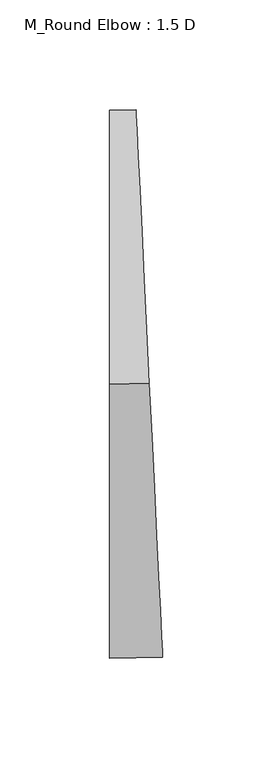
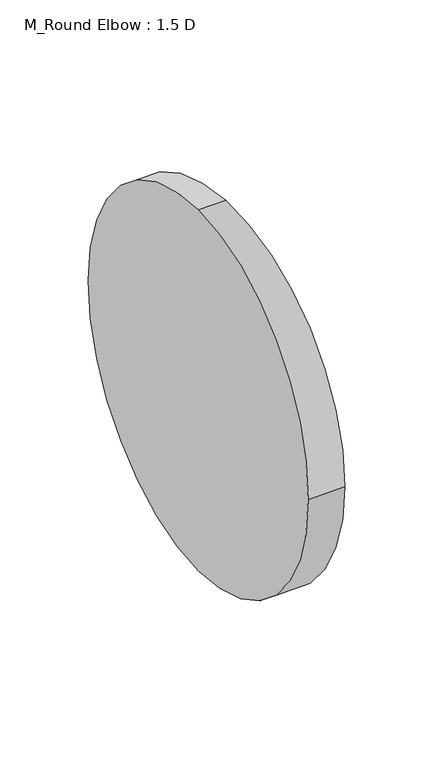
"""IFC4 building model written with IfcOpenShell, lengths in millimetres: duct fitting geometry, M_Round Elbow : 1.5 D."""

import ifcopenshell
import ifcopenshell.guid

model = None  # the IFC model being written
_history = None  # IfcOwnerHistory: only IFC2X3 demands one
_inside = {}  # id of a spatial element -> (the spatial element, [elements in it])
_under = {}  # id of a project, library or spatial element -> (it, [spatial elements below it])
_declared = {}  # id of a project -> (the project, [libraries it declares])
_typed = {}  # id of a type object -> (the type object, [elements of that type])
_made_of = {}  # id of a material, layer set ... -> (it, [elements and type objects made of it])


def new_model(schema):
    """Start an empty IFC model of exactly this schema.

    Asked for "IFC4X3", IfcOpenShell would pick the latest addendum, in which some entities
    have other attributes; the version numbers below select the first issue.
    IFC2X3 requires an IfcOwnerHistory on every rooted entity: one is made here for all.
    """
    global model, _history
    if schema == "IFC4X3":
        model = ifcopenshell.file(schema_version=(4, 3, 0, 0))
    else:
        model = ifcopenshell.file(schema=schema)
    _inside.clear()
    _under.clear()
    _declared.clear()
    _typed.clear()
    _made_of.clear()
    _history = None
    if model.schema == "IFC2X3":
        org = make("IfcOrganization", Name="unknown")
        user = make(
            "IfcPersonAndOrganization",
            ThePerson=make("IfcPerson", FamilyName="unknown"),
            TheOrganization=org,
        )
        app = make(
            "IfcApplication",
            ApplicationDeveloper=org,
            Version="unknown",
            ApplicationFullName="unknown",
            ApplicationIdentifier="unknown",
        )
        _history = make(
            "IfcOwnerHistory",
            OwningUser=user,
            OwningApplication=app,
            ChangeAction="ADDED",
            CreationDate=0,
        )
    return model


def make(cls, **values):
    """One entity of the class cls with the attributes given. An attribute that is None is left unset."""
    return model.create_entity(
        cls, **{name: value for name, value in values.items() if value is not None}
    )


def rooted(cls, **values):
    """An entity with a GlobalId (a new one), such as an element, a storey or a relation."""
    return make(cls, GlobalId=ifcopenshell.guid.new(), OwnerHistory=_history, **values)


def si_unit(unit_type, name, prefix=None):
    """IfcSIUnit, for example si_unit("LENGTHUNIT", "METRE", prefix="MILLI")."""
    return make("IfcSIUnit", UnitType=unit_type, Prefix=prefix, Name=name)


def assignment(units):
    """IfcUnitAssignment: the units of a project."""
    return None if units is None else make("IfcUnitAssignment", Units=units)


def point(xyz):
    """IfcCartesianPoint."""
    return None if xyz is None else make("IfcCartesianPoint", Coordinates=xyz)


def direction(xyz):
    """IfcDirection."""
    return None if xyz is None else make("IfcDirection", DirectionRatios=xyz)


def frame(location, z_axis=None, x_axis=None):
    """IfcAxis2Placement3D, a coordinate frame: its origin and axes. An axis left out is left unset."""
    return make(
        "IfcAxis2Placement3D",
        Location=point(location),
        Axis=direction(z_axis),
        RefDirection=direction(x_axis),
    )


def origin():
    """The frame at (0, 0, 0) with its axes left unset."""
    return frame((0.0, 0.0, 0.0))


def place(relative_to, where):
    """IfcLocalPlacement: puts the frame where relative to a parent placement (None: the world)."""
    return make(
        "IfcLocalPlacement", PlacementRelTo=relative_to, RelativePlacement=where
    )


def context(
    kind, dimensions, precision=None, world=None, true_north=None, identifier=None
):
    """IfcGeometricRepresentationContext, for example the 3D "Model" context."""
    return make(
        "IfcGeometricRepresentationContext",
        ContextIdentifier=identifier,
        ContextType=kind,
        CoordinateSpaceDimension=dimensions,
        Precision=precision,
        WorldCoordinateSystem=world,
        TrueNorth=true_north,
    )


def project(units=None, contexts=None):
    """IfcProject with its units and contexts."""
    return rooted(
        "IfcProject",
        Name="project",
        RepresentationContexts=contexts,
        UnitsInContext=assignment(units),
    )


def spatial(cls, under=None, at=None, **own):
    """A site, building, storey or space (cls), placed at a placement, below another one or the project."""
    s = rooted(cls, ObjectPlacement=at, **own)
    if under is not None:
        _under.setdefault(under.id(), (under, []))[1].append(s)
    return s


def circle_curve(where, radius):
    """IfcCircle in the frame where."""
    return make("IfcCircle", Position=where, Radius=radius)


def ellipse_curve(where, semi_axis1, semi_axis2):
    """IfcEllipse in the frame where."""
    return make(
        "IfcEllipse", Position=where, SemiAxis1=semi_axis1, SemiAxis2=semi_axis2
    )


def trimmed(basis, trim1, trim2, sense, master):
    """IfcTrimmedCurve: the piece of a basis curve between two trims."""
    return make(
        "IfcTrimmedCurve",
        BasisCurve=basis,
        Trim1=trim1,
        Trim2=trim2,
        SenseAgreement=sense,
        MasterRepresentation=master,
    )


def shape(context_of_items, identifier, shape_type, items):
    """IfcShapeRepresentation: the items that make up one representation, for example the "Body"."""
    return make(
        "IfcShapeRepresentation",
        ContextOfItems=context_of_items,
        RepresentationIdentifier=identifier,
        RepresentationType=shape_type,
        Items=items,
    )


def source(mapping_origin, context_of_items, identifier, shape_type, items):
    """IfcRepresentationMap: a shape defined once, which mapped items show again and again."""
    return make(
        "IfcRepresentationMap",
        MappingOrigin=mapping_origin,
        MappedRepresentation=shape(context_of_items, identifier, shape_type, items),
    )


def transform(
    local_origin,
    x_axis=None,
    y_axis=None,
    z_axis=None,
    scale=None,
    scale2=None,
    scale3=None,
    uniform=True,
):
    """IfcCartesianTransformationOperator3D, or its non-uniform kind. x_axis, y_axis, z_axis: its Axis1, 2, 3."""
    if uniform:
        return make(
            "IfcCartesianTransformationOperator3D",
            Axis1=direction(x_axis),
            Axis2=direction(y_axis),
            LocalOrigin=point(local_origin),
            Scale=scale,
            Axis3=direction(z_axis),
        )
    return make(
        "IfcCartesianTransformationOperator3DnonUniform",
        Axis1=direction(x_axis),
        Axis2=direction(y_axis),
        LocalOrigin=point(local_origin),
        Scale=scale,
        Axis3=direction(z_axis),
        Scale2=scale2,
        Scale3=scale3,
    )


def mapped(mapping_source, mapping_target):
    """IfcMappedItem: shows the shape of a source again, moved by a transform."""
    return make(
        "IfcMappedItem", MappingSource=mapping_source, MappingTarget=mapping_target
    )


def made_of(thing, what):
    """Note that an element or type object is made of a material, layer set ...; save() writes the relation."""
    if what is not None:
        _made_of.setdefault(what.id(), (what, []))[1].append(thing)
    return thing


def element(
    cls,
    number,
    at=None,
    inside=None,
    cuts=None,
    type_object=None,
    material=None,
    context=None,
    identifier="Body",
    shape_type=None,
    held_by="IfcProductDefinitionShape",
    body=None,
    shapes=None,
    **own,
):
    """One element of the class cls, such as IfcWall. Its Tag is "e" and its number.

    at: its placement. inside: the storey or other place that contains it. cuts: it is an
    opening in that element (IfcRelVoidsElement). A single representation is given by context,
    identifier, shape_type and body (its items); several are given by shapes. held_by: the class
    of the entity that holds the representations. save() writes the other relations.
    """
    e = rooted(cls, Tag="e%d" % number, ObjectPlacement=at, **own)
    if body is not None:
        shapes = [shape(context, identifier, shape_type, body)]
    if shapes is not None:
        e.Representation = make(held_by, Representations=shapes)
    if inside is not None:
        _inside.setdefault(inside.id(), (inside, []))[1].append(e)
    if cuts is not None:
        rooted(
            "IfcRelVoidsElement", RelatingBuildingElement=cuts, RelatedOpeningElement=e
        )
    if type_object is not None:
        _typed.setdefault(type_object.id(), (type_object, []))[1].append(e)
    return made_of(e, material)


def aggregate(whole, parts):
    """IfcRelAggregates: a whole, such as a stair, and the parts it consists of."""
    return rooted("IfcRelAggregates", RelatingObject=whole, RelatedObjects=parts)


def save(model, path):
    """Write the relations noted so far, then the file.

    IfcRelAggregates (storeys below a building ...), IfcRelContainedInSpatialStructure (elements
    in a storey), IfcRelDefinesByType, IfcRelAssociatesMaterial and IfcRelDeclares: one each for
    every whole, place, type object, material and project.
    """
    for whole, parts in _under.values():
        aggregate(whole, parts)
    for where, things in _inside.values():
        rooted(
            "IfcRelContainedInSpatialStructure",
            RelatedElements=things,
            RelatingStructure=where,
        )
    for kind, things in _typed.values():
        rooted("IfcRelDefinesByType", RelatedObjects=things, RelatingType=kind)
    for what, things in _made_of.values():
        rooted("IfcRelAssociatesMaterial", RelatedObjects=things, RelatingMaterial=what)
    for by, libraries in _declared.values():
        rooted("IfcRelDeclares", RelatingContext=by, RelatedDefinitions=libraries)
    model.write(path)


def plane_surface(at):
    """IfcPlane: the flat surface through the origin of the frame at, square to its z axis."""
    return make("IfcPlane", Position=at)


def revolved_surface(curve, axis_point, axis_direction):
    """IfcSurfaceOfRevolution: the curve turned about the line through axis_point along axis_direction."""
    return make(
        "IfcSurfaceOfRevolution",
        SweptCurve=make("IfcArbitraryOpenProfileDef", ProfileType="CURVE", Curve=curve),
        AxisPosition=make("IfcAxis1Placement", Location=point(axis_point), Axis=direction(axis_direction)),
    )


def advanced_brep(points, edges, surfaces, faces):
    """IfcAdvancedBrep: a solid bounded by faces that lie on surfaces and meet in shared edges.

    An edge is (start, end): straight between two places in points (the first is 0);
    or (start, end, curve); or (start, end, curve, False) where it runs against its curve.
    A face is (place in surfaces, loops), or (place, loops, False) where it looks against
    its surface's normal. A loop lists edges by number (the first is 1), with a minus sign
    where the edge is run from its end to its start. The first loop is the outer one.
    """
    corners = [point(p) for p in points]
    vertices = [make("IfcVertexPoint", VertexGeometry=c) for c in corners]
    made = []
    for start, end, *more in edges:
        made.append(
            make(
                "IfcEdgeCurve",
                EdgeStart=vertices[start],
                EdgeEnd=vertices[end],
                EdgeGeometry=more[0] if more else make("IfcPolyline", Points=[corners[start], corners[end]]),
                SameSense=more[1] if len(more) > 1 else True,
            )
        )
    hull = []
    for where, loops, *sense in faces:
        bounds = []
        for j, loop in enumerate(loops):
            ring = [make("IfcOrientedEdge", EdgeElement=made[abs(k) - 1], Orientation=k > 0) for k in loop]
            bounds.append(
                make(
                    "IfcFaceOuterBound" if j == 0 else "IfcFaceBound",
                    Bound=make("IfcEdgeLoop", EdgeList=ring),
                    Orientation=True,
                )
            )
        hull.append(make("IfcAdvancedFace", Bounds=bounds, FaceSurface=surfaces[where], SameSense=sense[0] if sense else True))
    return make("IfcAdvancedBrep", Outer=make("IfcClosedShell", CfsFaces=hull))


def m_round_elbow_1_5_d_b66a0a7e(model_context):
    return source(origin(), model_context, "Body", "AdvancedBrep", [
        advanced_brep(
        [(-9.0974059, 0.0, 125.0), (-9.0974059, 125.0, 0.0), (-9.0974059, 0.0, -125.0), (-9.0974059, -125.0, 0.0), (9.0867039, 0.4411419, 125.0), (15.1480738, -124.4118107, 0.0), (9.0867039, 0.4411419, -125.0), (3.025334, 125.2940946, 0.0)],
        [
            (0, 1, circle_curve(frame((-9.0974059, 0.0, 0.0), z_axis=(-1.0, 0.0, 0.0), x_axis=(0.0, 1.0, 0.0)), 125.0)),
            (1, 2, circle_curve(frame((-9.0974059, 0.0, 0.0), z_axis=(-1.0, 0.0, 0.0), x_axis=(0.0, 1.0, 0.0)), 125.0)),
            (2, 3, circle_curve(frame((-9.0974059, 0.0, 0.0), z_axis=(-1.0, 0.0, 0.0), x_axis=(0.0, 1.0, 0.0)), 125.0)),
            (3, 0, circle_curve(frame((-9.0974059, 0.0, 0.0), z_axis=(-1.0, 0.0, 0.0), x_axis=(0.0, 1.0, 0.0)), 125.0)),
            (4, 5, circle_curve(frame((9.0867039, 0.4411419, 0.0), z_axis=(0.9988236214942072, 0.04849095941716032, 0.0), x_axis=(-0.04849095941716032, 0.9988236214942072, 0.0)), 125.0)),
            (5, 6, circle_curve(frame((9.0867039, 0.4411419, 0.0), z_axis=(0.9988236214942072, 0.04849095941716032, 0.0), x_axis=(-0.04849095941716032, 0.9988236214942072, 0.0)), 125.0)),
            (6, 7, circle_curve(frame((9.0867039, 0.4411419, 0.0), z_axis=(0.9988236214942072, 0.04849095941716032, 0.0), x_axis=(-0.04849095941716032, 0.9988236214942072, 0.0)), 125.0)),
            (7, 4, circle_curve(frame((9.0867039, 0.4411419, 0.0), z_axis=(0.9988236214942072, 0.04849095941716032, 0.0), x_axis=(-0.04849095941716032, 0.9988236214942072, 0.0)), 125.0)),
            (7, 1, circle_curve(frame((-9.0974059, 375.0, 0.0), z_axis=(0.0, 0.0, -1.0), x_axis=(0.0, -1.0, 0.0)), 250.0)),
            (0, 4, circle_curve(frame((-9.0974059, 375.0, 125.0), z_axis=(0.0, 0.0, 1.0), x_axis=(0.0, -1.0, 0.0)), 375.0)),
            (6, 2, circle_curve(frame((-9.0974059, 375.0, -125.0), z_axis=(0.0, 0.0, -1.0), x_axis=(0.0, -1.0, 0.0)), 375.0)),
            (5, 3, circle_curve(frame((-9.0974059, 375.0, 0.0), z_axis=(0.0, 0.0, -1.0), x_axis=(0.0, -1.0, 0.0)), 500.0)),
        ],
        [
            plane_surface(frame((-9.0974059, 0.0, 0.0), z_axis=(-1.0, 0.0, 0.0), x_axis=(0.0, 0.0, 1.0))),
            plane_surface(frame((9.0867039, 0.4411419, 0.0), z_axis=(0.9988236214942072, 0.04849095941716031, 0.0), x_axis=(0.0, 0.0, 1.0))),
            revolved_surface(trimmed(ellipse_curve(frame((-9.0974059, 0.0, 0.0), z_axis=(-1.0, 0.0, 0.0), x_axis=(0.0, 1.0, 0.0)), 125.0, 125.0), [point((-9.0974059, 0.0, 125.0))], [point((-9.0974059, 125.0, 0.0))], True, "CARTESIAN"), (-9.0974059, 375.0, 0.0), (0.0, 0.0, 1.0)),
            revolved_surface(trimmed(ellipse_curve(frame((-9.0974059, 0.0, 0.0), z_axis=(-1.0, 0.0, 0.0), x_axis=(0.0, 1.0, 0.0)), 125.0, 125.0), [point((-9.0974059, 125.0, 0.0))], [point((-9.0974059, 0.0, -125.0))], True, "CARTESIAN"), (-9.0974059, 375.0, 0.0), (0.0, 0.0, 1.0)),
            revolved_surface(trimmed(ellipse_curve(frame((-9.0974059, 0.0, 0.0), z_axis=(-1.0, 0.0, 0.0), x_axis=(0.0, 1.0, 0.0)), 125.0, 125.0), [point((-9.0974059, 0.0, -125.0))], [point((-9.0974059, -125.0, 0.0))], True, "CARTESIAN"), (-9.0974059, 375.0, 0.0), (0.0, 0.0, 1.0)),
            revolved_surface(trimmed(ellipse_curve(frame((-9.0974059, 0.0, 0.0), z_axis=(-1.0, 0.0, 0.0), x_axis=(0.0, 1.0, 0.0)), 125.0, 125.0), [point((-9.0974059, -125.0, 0.0))], [point((-9.0974059, 0.0, 125.0))], True, "CARTESIAN"), (-9.0974059, 375.0, 0.0), (0.0, 0.0, 1.0)),
        ],
        [
            (0, [[1, 2, 3, 4]]),
            (1, [[5, 6, 7, 8]]),
            (2, [[9, -1, 10, -8]]),
            (3, [[11, -2, -9, -7]]),
            (4, [[12, -3, -11, -6]]),
            (5, [[-10, -4, -12, -5]]),
        ],
    ),
        advanced_brep(
        [(-9.0974059, 0.0, 125.0), (-9.0974059, 125.0, 0.0), (-9.0974059, 0.0, -125.0), (-9.0974059, -125.0, 0.0), (9.0867039, 0.4411419, 125.0), (15.1480738, -124.4118107, 0.0), (9.0867039, 0.4411419, -125.0), (3.025334, 125.2940946, 0.0)],
        [
            (0, 1, circle_curve(frame((-9.0974059, 0.0, 0.0), z_axis=(-1.0, 0.0, 0.0), x_axis=(0.0, 1.0, 0.0)), 125.0)),
            (1, 2, circle_curve(frame((-9.0974059, 0.0, 0.0), z_axis=(-1.0, 0.0, 0.0), x_axis=(0.0, 1.0, 0.0)), 125.0)),
            (2, 3, circle_curve(frame((-9.0974059, 0.0, 0.0), z_axis=(-1.0, 0.0, 0.0), x_axis=(0.0, 1.0, 0.0)), 125.0)),
            (3, 0, circle_curve(frame((-9.0974059, 0.0, 0.0), z_axis=(-1.0, 0.0, 0.0), x_axis=(0.0, 1.0, 0.0)), 125.0)),
            (4, 5, circle_curve(frame((9.0867039, 0.4411419, 0.0), z_axis=(0.9988236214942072, 0.04849095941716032, 0.0), x_axis=(-0.04849095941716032, 0.9988236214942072, 0.0)), 125.0)),
            (5, 6, circle_curve(frame((9.0867039, 0.4411419, 0.0), z_axis=(0.9988236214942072, 0.04849095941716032, 0.0), x_axis=(-0.04849095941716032, 0.9988236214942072, 0.0)), 125.0)),
            (6, 7, circle_curve(frame((9.0867039, 0.4411419, 0.0), z_axis=(0.9988236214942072, 0.04849095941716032, 0.0), x_axis=(-0.04849095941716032, 0.9988236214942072, 0.0)), 125.0)),
            (7, 4, circle_curve(frame((9.0867039, 0.4411419, 0.0), z_axis=(0.9988236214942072, 0.04849095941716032, 0.0), x_axis=(-0.04849095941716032, 0.9988236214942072, 0.0)), 125.0)),
            (7, 1, circle_curve(frame((-9.0974059, 375.0, 0.0), z_axis=(0.0, 0.0, -1.0), x_axis=(0.0, -1.0, 0.0)), 250.0)),
            (0, 4, circle_curve(frame((-9.0974059, 375.0, 125.0), z_axis=(0.0, 0.0, 1.0), x_axis=(0.0, -1.0, 0.0)), 375.0)),
            (6, 2, circle_curve(frame((-9.0974059, 375.0, -125.0), z_axis=(0.0, 0.0, -1.0), x_axis=(0.0, -1.0, 0.0)), 375.0)),
            (5, 3, circle_curve(frame((-9.0974059, 375.0, 0.0), z_axis=(0.0, 0.0, -1.0), x_axis=(0.0, -1.0, 0.0)), 500.0)),
        ],
        [
            plane_surface(frame((-9.0974059, 0.0, 0.0), z_axis=(-1.0, 0.0, 0.0), x_axis=(0.0, 0.0, 1.0))),
            plane_surface(frame((9.0867039, 0.4411419, 0.0), z_axis=(0.9988236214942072, 0.04849095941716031, 0.0), x_axis=(0.0, 0.0, 1.0))),
            revolved_surface(trimmed(ellipse_curve(frame((-9.0974059, 0.0, 0.0), z_axis=(-1.0, 0.0, 0.0), x_axis=(0.0, 1.0, 0.0)), 125.0, 125.0), [point((-9.0974059, 0.0, 125.0))], [point((-9.0974059, 125.0, 0.0))], True, "CARTESIAN"), (-9.0974059, 375.0, 0.0), (0.0, 0.0, 1.0)),
            revolved_surface(trimmed(ellipse_curve(frame((-9.0974059, 0.0, 0.0), z_axis=(-1.0, 0.0, 0.0), x_axis=(0.0, 1.0, 0.0)), 125.0, 125.0), [point((-9.0974059, 125.0, 0.0))], [point((-9.0974059, 0.0, -125.0))], True, "CARTESIAN"), (-9.0974059, 375.0, 0.0), (0.0, 0.0, 1.0)),
            revolved_surface(trimmed(ellipse_curve(frame((-9.0974059, 0.0, 0.0), z_axis=(-1.0, 0.0, 0.0), x_axis=(0.0, 1.0, 0.0)), 125.0, 125.0), [point((-9.0974059, 0.0, -125.0))], [point((-9.0974059, -125.0, 0.0))], True, "CARTESIAN"), (-9.0974059, 375.0, 0.0), (0.0, 0.0, 1.0)),
            revolved_surface(trimmed(ellipse_curve(frame((-9.0974059, 0.0, 0.0), z_axis=(-1.0, 0.0, 0.0), x_axis=(0.0, 1.0, 0.0)), 125.0, 125.0), [point((-9.0974059, -125.0, 0.0))], [point((-9.0974059, 0.0, 125.0))], True, "CARTESIAN"), (-9.0974059, 375.0, 0.0), (0.0, 0.0, 1.0)),
        ],
        [
            (0, [[1, 2, 3, 4]]),
            (1, [[5, 6, 7, 8]]),
            (2, [[9, -1, 10, -8]]),
            (3, [[11, -2, -9, -7]]),
            (4, [[12, -3, -11, -6]]),
            (5, [[-10, -4, -12, -5]]),
        ],
    ),
        advanced_brep(
        [(-9.0974059, 0.0, 125.0), (-9.0974059, 125.0, 0.0), (-9.0974059, 0.0, -125.0), (-9.0974059, -125.0, 0.0), (9.0867039, 0.4411419, 125.0), (15.1480738, -124.4118107, 0.0), (9.0867039, 0.4411419, -125.0), (3.025334, 125.2940946, 0.0)],
        [
            (0, 1, circle_curve(frame((-9.0974059, 0.0, 0.0), z_axis=(-1.0, 0.0, 0.0), x_axis=(0.0, 1.0, 0.0)), 125.0)),
            (1, 2, circle_curve(frame((-9.0974059, 0.0, 0.0), z_axis=(-1.0, 0.0, 0.0), x_axis=(0.0, 1.0, 0.0)), 125.0)),
            (2, 3, circle_curve(frame((-9.0974059, 0.0, 0.0), z_axis=(-1.0, 0.0, 0.0), x_axis=(0.0, 1.0, 0.0)), 125.0)),
            (3, 0, circle_curve(frame((-9.0974059, 0.0, 0.0), z_axis=(-1.0, 0.0, 0.0), x_axis=(0.0, 1.0, 0.0)), 125.0)),
            (4, 5, circle_curve(frame((9.0867039, 0.4411419, 0.0), z_axis=(0.9988236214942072, 0.04849095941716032, 0.0), x_axis=(-0.04849095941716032, 0.9988236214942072, 0.0)), 125.0)),
            (5, 6, circle_curve(frame((9.0867039, 0.4411419, 0.0), z_axis=(0.9988236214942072, 0.04849095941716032, 0.0), x_axis=(-0.04849095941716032, 0.9988236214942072, 0.0)), 125.0)),
            (6, 7, circle_curve(frame((9.0867039, 0.4411419, 0.0), z_axis=(0.9988236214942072, 0.04849095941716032, 0.0), x_axis=(-0.04849095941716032, 0.9988236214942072, 0.0)), 125.0)),
            (7, 4, circle_curve(frame((9.0867039, 0.4411419, 0.0), z_axis=(0.9988236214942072, 0.04849095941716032, 0.0), x_axis=(-0.04849095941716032, 0.9988236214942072, 0.0)), 125.0)),
            (7, 1, circle_curve(frame((-9.0974059, 375.0, 0.0), z_axis=(0.0, 0.0, -1.0), x_axis=(0.0, -1.0, 0.0)), 250.0)),
            (0, 4, circle_curve(frame((-9.0974059, 375.0, 125.0), z_axis=(0.0, 0.0, 1.0), x_axis=(0.0, -1.0, 0.0)), 375.0)),
            (6, 2, circle_curve(frame((-9.0974059, 375.0, -125.0), z_axis=(0.0, 0.0, -1.0), x_axis=(0.0, -1.0, 0.0)), 375.0)),
            (5, 3, circle_curve(frame((-9.0974059, 375.0, 0.0), z_axis=(0.0, 0.0, -1.0), x_axis=(0.0, -1.0, 0.0)), 500.0)),
        ],
        [
            plane_surface(frame((-9.0974059, 0.0, 0.0), z_axis=(-1.0, 0.0, 0.0), x_axis=(0.0, 0.0, 1.0))),
            plane_surface(frame((9.0867039, 0.4411419, 0.0), z_axis=(0.9988236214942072, 0.04849095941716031, 0.0), x_axis=(0.0, 0.0, 1.0))),
            revolved_surface(trimmed(ellipse_curve(frame((-9.0974059, 0.0, 0.0), z_axis=(-1.0, 0.0, 0.0), x_axis=(0.0, 1.0, 0.0)), 125.0, 125.0), [point((-9.0974059, 0.0, 125.0))], [point((-9.0974059, 125.0, 0.0))], True, "CARTESIAN"), (-9.0974059, 375.0, 0.0), (0.0, 0.0, 1.0)),
            revolved_surface(trimmed(ellipse_curve(frame((-9.0974059, 0.0, 0.0), z_axis=(-1.0, 0.0, 0.0), x_axis=(0.0, 1.0, 0.0)), 125.0, 125.0), [point((-9.0974059, 125.0, 0.0))], [point((-9.0974059, 0.0, -125.0))], True, "CARTESIAN"), (-9.0974059, 375.0, 0.0), (0.0, 0.0, 1.0)),
            revolved_surface(trimmed(ellipse_curve(frame((-9.0974059, 0.0, 0.0), z_axis=(-1.0, 0.0, 0.0), x_axis=(0.0, 1.0, 0.0)), 125.0, 125.0), [point((-9.0974059, 0.0, -125.0))], [point((-9.0974059, -125.0, 0.0))], True, "CARTESIAN"), (-9.0974059, 375.0, 0.0), (0.0, 0.0, 1.0)),
            revolved_surface(trimmed(ellipse_curve(frame((-9.0974059, 0.0, 0.0), z_axis=(-1.0, 0.0, 0.0), x_axis=(0.0, 1.0, 0.0)), 125.0, 125.0), [point((-9.0974059, -125.0, 0.0))], [point((-9.0974059, 0.0, 125.0))], True, "CARTESIAN"), (-9.0974059, 375.0, 0.0), (0.0, 0.0, 1.0)),
        ],
        [
            (0, [[1, 2, 3, 4]]),
            (1, [[5, 6, 7, 8]]),
            (2, [[9, -1, 10, -8]]),
            (3, [[11, -2, -9, -7]]),
            (4, [[12, -3, -11, -6]]),
            (5, [[-10, -4, -12, -5]]),
        ],
    ),
    ])


if __name__ == "__main__":
    model = new_model("IFC4")
    model_context = context("Model", 3, world=origin())
    ifc_project = project(units=[si_unit("LENGTHUNIT", "METRE", prefix="MILLI")], contexts=[model_context])
    site = spatial("IfcSite", under=ifc_project)
    building = spatial("IfcBuilding", under=site)
    placement = place(None, origin())
    m_round_elbow_1_5_d_shape = m_round_elbow_1_5_d_b66a0a7e(model_context)
    element("IfcDuctFitting", 1, ObjectType="M_Round Elbow : 1.5 D", at=placement, inside=building, context=model_context, shape_type="MappedRepresentation", body=[
        mapped(m_round_elbow_1_5_d_shape, transform((0.0, 0.0, 0.0), x_axis=(1.0, 0.0, 0.0), y_axis=(0.0, 1.0, 0.0), z_axis=(0.0, 0.0, 1.0))),
    ])
    save(model, "model.ifc")
